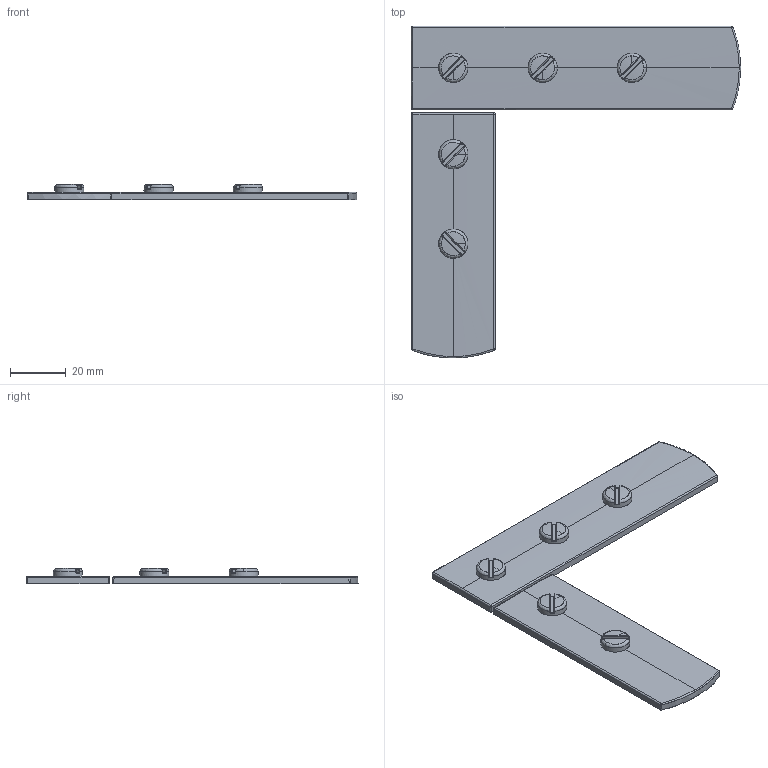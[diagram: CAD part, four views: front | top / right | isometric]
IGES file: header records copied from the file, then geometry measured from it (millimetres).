
Start section: C
Global section: file name: 8292-118-88 B1.igs; native system: By Siemens PLM Incorporated; preprocessor: XPlus GENERIC/IGES 16.0.42; author: Author; organization: Title; date: 20230831.121438; units: millimetre
Bounding box: 118 x 118.95 x 5.72 mm (x, y, z)
Surface area: 14053.8 mm2 (no closed solid volume)
Topology: 0 solids, 0 shells, 189 faces, 894 edges, 894 vertices
Faces by surface type: bspline 189
